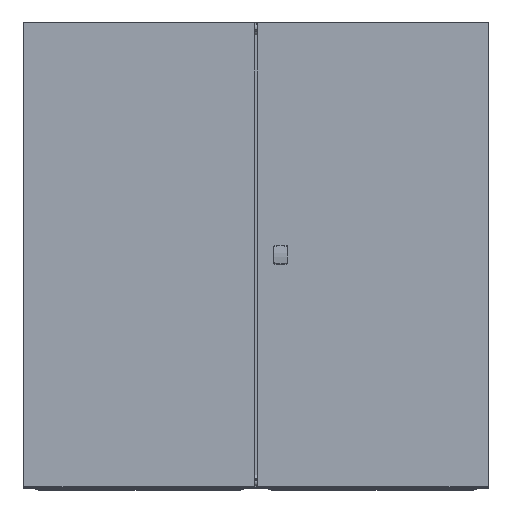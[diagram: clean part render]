
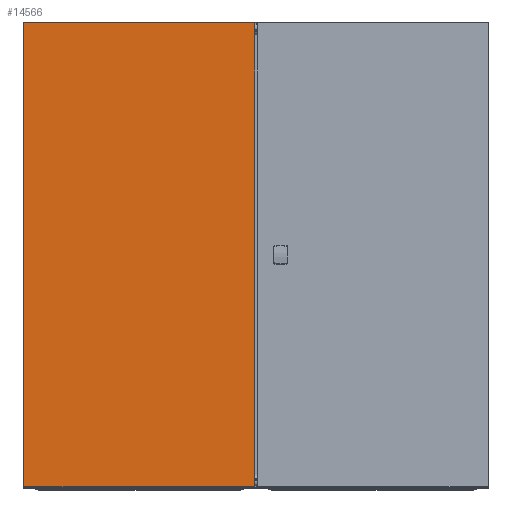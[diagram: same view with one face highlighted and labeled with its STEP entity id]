
A CAD part, top view. The second image highlights one B-rep face of the part: STEP entity #14566.
In plain terms, the highlighted planar face has unit normal (0, 0, 1).
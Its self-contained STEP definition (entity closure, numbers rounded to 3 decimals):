
#4226=ORIENTED_EDGE('',*,*,#6574,.T.);
#4227=ORIENTED_EDGE('',*,*,#6575,.F.);
#4228=ORIENTED_EDGE('',*,*,#6576,.F.);
#4229=ORIENTED_EDGE('',*,*,#6572,.T.);
#6572=EDGE_CURVE('',#8037,#8036,#9377,.T.);
#6574=EDGE_CURVE('',#8036,#8038,#9379,.T.);
#6575=EDGE_CURVE('',#8039,#8038,#9380,.T.);
#6576=EDGE_CURVE('',#8037,#8039,#9381,.T.);
#8036=VERTEX_POINT('',#24863);
#8037=VERTEX_POINT('',#24865);
#8038=VERTEX_POINT('',#24869);
#8039=VERTEX_POINT('',#24871);
#9377=LINE('',#24864,#10724);
#9379=LINE('',#24868,#10726);
#9380=LINE('',#24870,#10727);
#9381=LINE('',#24872,#10728);
#10724=VECTOR('',#20297,1000.);
#10726=VECTOR('',#20301,1000.);
#10727=VECTOR('',#20302,1000.);
#10728=VECTOR('',#20303,1000.);
#11868=EDGE_LOOP('',(#4226,#4227,#4228,#4229));
#13061=FACE_BOUND('',#11868,.T.);
#13751=PLANE('',#16517);
#14566=ADVANCED_FACE('',(#13061),#13751,.F.);
#16517=AXIS2_PLACEMENT_3D('',#24867,#20299,#20300);
#20297=DIRECTION('',(0.,-1.,0.));
#20299=DIRECTION('',(0.,0.,-1.));
#20300=DIRECTION('',(-1.,0.,0.));
#20301=DIRECTION('',(1.,0.,0.));
#20302=DIRECTION('',(0.,-1.,0.));
#20303=DIRECTION('',(1.,0.,0.));
#24863=CARTESIAN_POINT('',(-247.75,-497.75,0.));
#24864=CARTESIAN_POINT('',(-247.75,497.75,0.));
#24865=CARTESIAN_POINT('',(-247.75,497.75,0.));
#24867=CARTESIAN_POINT('',(-247.75,497.75,0.));
#24868=CARTESIAN_POINT('',(-247.75,-497.75,0.));
#24869=CARTESIAN_POINT('',(247.75,-497.75,0.));
#24870=CARTESIAN_POINT('',(247.75,497.75,0.));
#24871=CARTESIAN_POINT('',(247.75,497.75,0.));
#24872=CARTESIAN_POINT('',(-247.75,497.75,0.));
